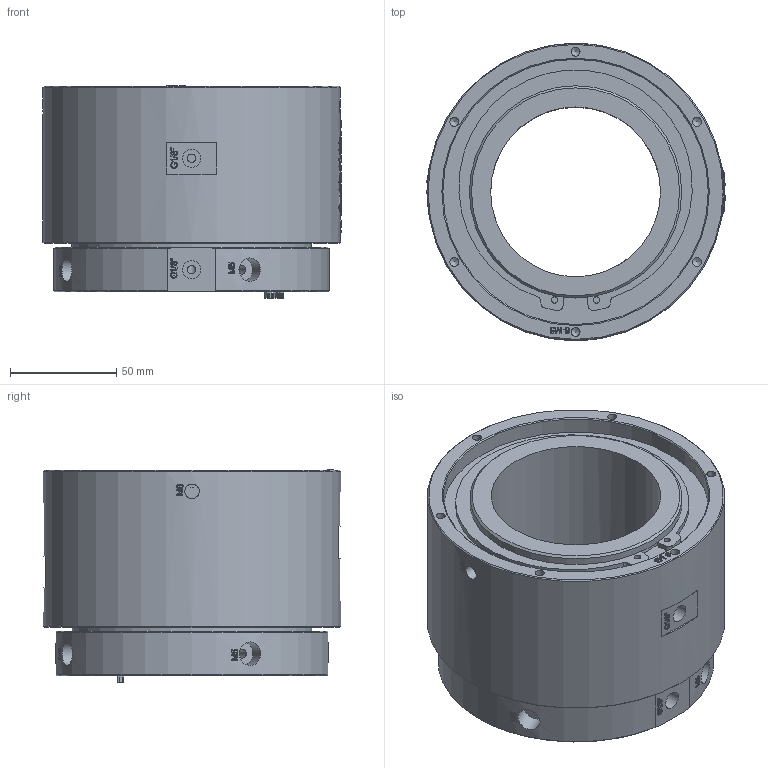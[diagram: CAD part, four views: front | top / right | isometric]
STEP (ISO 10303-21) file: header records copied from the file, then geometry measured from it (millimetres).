
FILE_DESCRIPTION(/* description */ (''),/* implementation_level */ '2;1');
FILE_NAME(/* name */ 'HQ0201-D80-3D模型.stp',/* time_stamp */ '2025-08-05T14:19:08+08:00',/* author */ (''),/* organization */ (''),/* preprocessor_version */ 'ST-DEVELOPER v16.7',/* originating_system */ 'SIEMENS PLM Software NX 12.0',/* authorisation */ '');
FILE_SCHEMA (('AUTOMOTIVE_DESIGN { 1 0 10303 214 3 1 1 1 }'));
Products named in the file (1): Admi16E026DChx7k
Bounding box: 140.55 x 140 x 100.2 mm (x, y, z)
Volume: 904412.1 mm3; surface area: 106909.3 mm2
Topology: 1 solids, 1 shells, 1431 faces, 3915 edges, 2609 vertices
Faces by surface type: extrusion 768, plane 507, cylinder 72, bspline 66, cone 18
Full cylindrical faces by diameter (mm): 3 x2, 4 x6, 4.1 x2, 4.2 x12, 6.8 x2, 7 x4, 8.5 x4, 11.125 x4, 80 x1, 96.5 x1, 100 x1, 113 x1, 125 x1, 140 x1
Entity records: 55613 total; most frequent: CARTESIAN_POINT 25431, ORIENTED_EDGE 7660, EDGE_CURVE 3830, B_SPLINE_CURVE_WITH_KNOTS 3751, DIRECTION 3124, VERTEX_POINT 2593, EDGE_LOOP 1623, ADVANCED_FACE 1431
